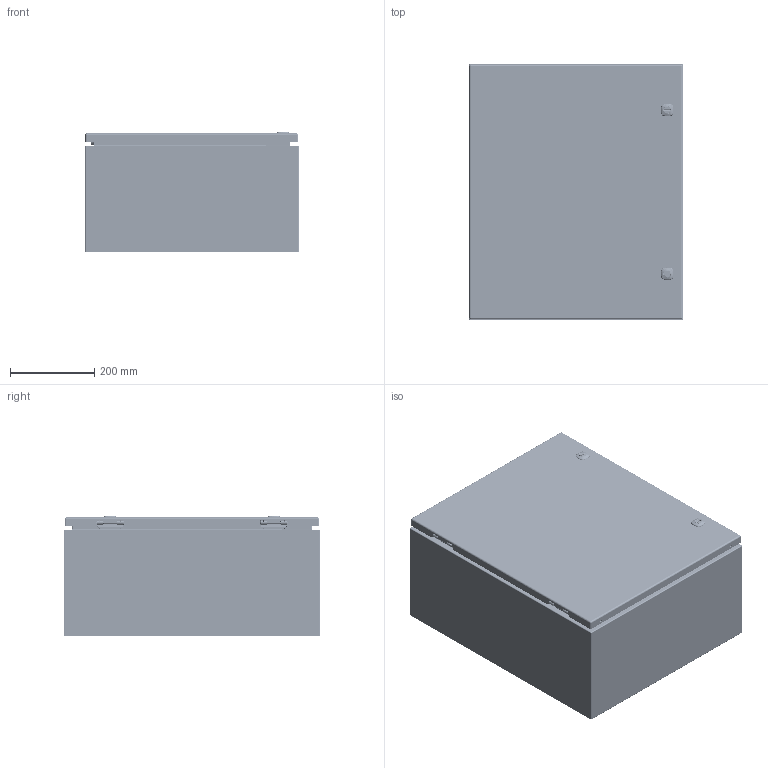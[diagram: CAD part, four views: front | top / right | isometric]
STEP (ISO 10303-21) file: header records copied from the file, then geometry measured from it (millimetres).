
FILE_DESCRIPTION(/* description */ ('5412ES 24" x 20" x 10" Assembly'),/* implementation_level */ '2;1');
FILE_NAME(/* name */ '5412ESB242010.stp',/* time_stamp */ '2024-01-19T10:06:25-05:00',/* author */ ('BoxCad'),/* organization */ (''),/* preprocessor_version */ 'ST-DEVELOPER v20',/* originating_system */ 'Autodesk Inventor 2024',/* authorisation */ '');
FILE_SCHEMA (('AUTOMOTIVE_DESIGN { 1 0 10303 214 3 1 1 }'));
Products named in the file (43): 5412ESB242010; 5412ESB242010B; 5412ESB242010B-P; STK-Q-16005; STUD_M6 x 16mm; 5412ESB242010C; 5412ESB242010C-P; 5412ESB242010G; STK-K-09800; STK-K-09800-2; STK-Q-33014; STK-Q-90398; STK-Q-40095; STK-Q-63410; STK-Q-16055; STK-Q-46020-24; STK-Q-07220-1; STK-Q-07220-2; STK-Q-07220-3; STK-Q-07220-4; STK-Q-07220-A; STK-Q-07220-B; STK-P-03820R; STK-S-00100; STK-K-12500; STK-Q-78111; STK-Q-78141; STK-Q-78120; STK-Q-78145; STK-Q-03200; STK-Q-78160; STK-Q-90390; STK-Q-78111-R; STK-Q-04050-08-1; STK-Q-04050-08-2; STK-Q-04050-08-P; STK-Q-04051-N; STK-A-01800; 5412ESB242010IPK; STK-Q-07610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
Assembly tree (73 placements, depth 4):
  5412ESB242010
    5412ESB242010B
      5412ESB242010B-P
      STK-Q-16005  x4
      STK-P-03820R
      STUD_M6 x 16mm
    5412ESB242010C
      5412ESB242010C-P
      5412ESB242010G
      STK-K-09800
        STK-Q-33014
        STK-Q-90398
        STK-Q-40095  x2
        STK-Q-63410  x2
      STK-K-09800-2
        STK-Q-33014
        STK-Q-90398
        STK-Q-40095  x2
        STK-Q-63410  x2
      STK-Q-16055  x4
      STK-Q-46020-24  x2
      STK-Q-07220-1
        STK-Q-07220-A
        STK-Q-07220-B
      STK-Q-07220-2
        STK-Q-07220-A
        STK-Q-07220-B
      STK-Q-07220-3
        STK-Q-07220-A
        STK-Q-07220-B
      STK-Q-07220-4
        STK-Q-07220-A
        STK-Q-07220-B
      STK-P-03820R
      STK-S-00100
      STK-K-12500  x2
        STK-Q-78111
        STK-Q-78141
        STK-Q-78120
        STK-Q-78145
        STK-Q-03200
        STK-Q-78160
        STK-Q-90390
        STK-Q-78111-R
    STK-Q-04050-08-1
      STK-Q-04050-08-P
      STK-Q-04051-N
    STK-Q-04050-08-2
      STK-Q-04050-08-P
      STK-Q-04051-N
    STK-A-01800
    5412ESB242010IPK
      STK-Q-07610  x4
      STK-Q-07310  x4
    881SP2420G
      881SP2420G-P
Bounding box: 508.07 x 609.6 x 287.27 mm (x, y, z)
Volume: 2721610 mm3; surface area: 3417697.8 mm2
Topology: 64 solids, 64 shells, 9812 faces, 25937 edges, 16272 vertices
Faces by surface type: bspline 3330, plane 2831, cylinder 2600, torus 695, sphere 220, cone 136
Full cylindrical faces by diameter (mm): 0 x1, 0.75 x9, 0.762 x9, 1 x8, 1.1 x8, 3.2 x4, 4.191 x40, 4.5 x4, 4.521 x8, 4.75 x2, 4.85 x16, 4.95 x4, 5 x4, 5.1 x30, 5.156 x4, 5.6 x2, 5.9 x25, 6.015 x40, 6.65 x4, 6.8 x4, 6.85 x8, 7.3 x2, 7.366 x4, 7.9 x8, 8 x12, 8.382 x2, 9.5 x4, 9.6 x2, 9.906 x4, 10 x2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
Entity records: 153262 total; most frequent: CARTESIAN_POINT 61044, ORIENTED_EDGE 20842, DIRECTION 15758, EDGE_CURVE 10421, VERTEX_POINT 6524, AXIS2_PLACEMENT_3D 5806, EDGE_LOOP 4319, LINE 4146
